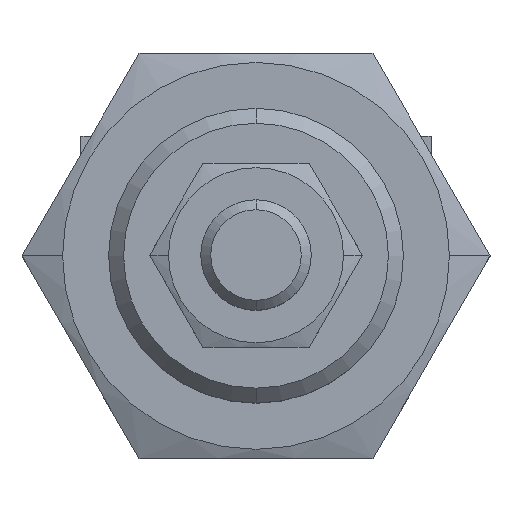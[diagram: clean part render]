
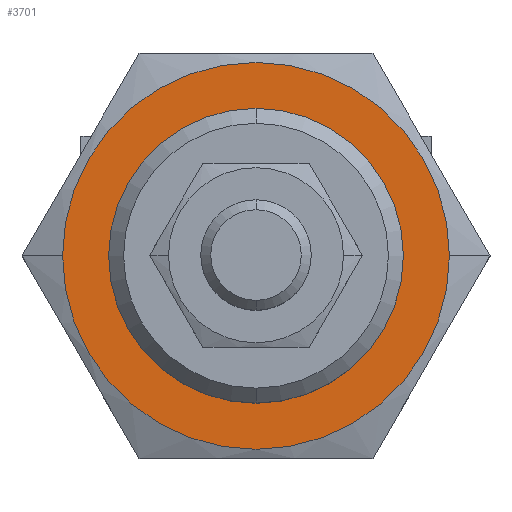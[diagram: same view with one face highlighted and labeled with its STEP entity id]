
A CAD part, top view. The second image highlights one B-rep face of the part: STEP entity #3701.
In plain terms, the highlighted planar face has unit normal (0, 0, 1).
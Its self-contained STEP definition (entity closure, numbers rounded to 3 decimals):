
#3284=CARTESIAN_POINT('',(0.,0.,0.));
#3285=DIRECTION('',(0.,0.,1.));
#3286=DIRECTION('',(0.,1.,0.));
#3287=AXIS2_PLACEMENT_3D('',#3284,#3285,#3286);
#3289=CARTESIAN_POINT('',(0.,0.,0.));
#3290=DIRECTION('',(0.,0.,1.));
#3291=DIRECTION('',(0.,-1.,0.));
#3292=AXIS2_PLACEMENT_3D('',#3289,#3290,#3291);
#3294=CARTESIAN_POINT('',(0.,0.,0.));
#3295=DIRECTION('',(0.,0.,1.));
#3296=DIRECTION('',(0.,1.,0.));
#3297=AXIS2_PLACEMENT_3D('',#3294,#3295,#3296);
#3299=CARTESIAN_POINT('',(0.,0.,0.));
#3300=DIRECTION('',(0.,0.,1.));
#3301=DIRECTION('',(0.,-1.,0.));
#3302=AXIS2_PLACEMENT_3D('',#3299,#3300,#3301);
#3656=CARTESIAN_POINT('',(0.,8.,0.));
#3657=CARTESIAN_POINT('',(0.,-8.,0.));
#3658=VERTEX_POINT('',#3656);
#3659=VERTEX_POINT('',#3657);
#3660=CARTESIAN_POINT('',(0.,10.5,0.));
#3661=CARTESIAN_POINT('',(0.,-10.5,0.));
#3662=VERTEX_POINT('',#3660);
#3663=VERTEX_POINT('',#3661);
#3684=CARTESIAN_POINT('',(0.,0.,0.));
#3685=DIRECTION('',(0.,0.,-1.));
#3686=DIRECTION('',(0.,-1.,0.));
#3687=AXIS2_PLACEMENT_3D('',#3684,#3685,#3686);
#3688=PLANE('',#3687);
#3690=ORIENTED_EDGE('',*,*,#3689,.F.);
#3692=ORIENTED_EDGE('',*,*,#3691,.F.);
#3693=EDGE_LOOP('',(#3690,#3692));
#3694=FACE_OUTER_BOUND('',#3693,.F.);
#3696=ORIENTED_EDGE('',*,*,#3695,.T.);
#3698=ORIENTED_EDGE('',*,*,#3697,.T.);
#3699=EDGE_LOOP('',(#3696,#3698));
#3700=FACE_BOUND('',#3699,.F.);
#3701=ADVANCED_FACE('',(#3694,#3700),#3688,.F.);
#3288=CIRCLE('',#3287,8.);
#3293=CIRCLE('',#3292,8.);
#3298=CIRCLE('',#3297,10.5);
#3303=CIRCLE('',#3302,10.5);
#3689=EDGE_CURVE('',#3662,#3663,#3298,.T.);
#3691=EDGE_CURVE('',#3663,#3662,#3303,.T.);
#3695=EDGE_CURVE('',#3658,#3659,#3288,.T.);
#3697=EDGE_CURVE('',#3659,#3658,#3293,.T.);
